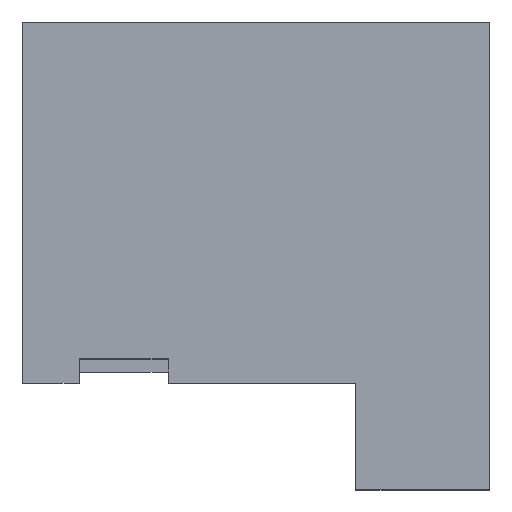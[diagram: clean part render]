
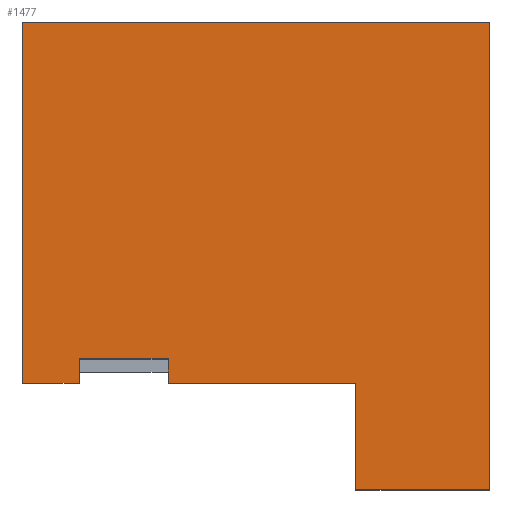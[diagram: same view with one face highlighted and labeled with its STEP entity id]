
A CAD part, top view. The second image highlights one B-rep face of the part: STEP entity #1477.
In plain terms, the highlighted planar face has unit normal (0, 0, 1).
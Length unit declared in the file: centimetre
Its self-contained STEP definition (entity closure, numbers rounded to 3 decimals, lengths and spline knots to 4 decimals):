
#1 = VERTEX_POINT ( 'NONE', #844 ) ;
#8 = LINE ( 'NONE', #511, #1486 ) ;
#17 = CARTESIAN_POINT ( 'NONE',  ( 713.7627, 0., 1000. ) ) ;
#22 = LINE ( 'NONE', #1015, #439 ) ;
#34 = CARTESIAN_POINT ( 'NONE',  ( 0., 1000., 1000. ) ) ;
#74 = LINE ( 'NONE', #1481, #113 ) ;
#113 = VECTOR ( 'NONE', #1605, 100. ) ;
#140 = LINE ( 'NONE', #17, #855 ) ;
#165 = EDGE_CURVE ( 'NONE', #708, #233, #1160, .T. ) ;
#192 = LINE ( 'NONE', #1283, #219 ) ;
#213 = CARTESIAN_POINT ( 'NONE',  ( 0., 1000., 1000. ) ) ;
#219 = VECTOR ( 'NONE', #945, 100. ) ;
#233 = VERTEX_POINT ( 'NONE', #213 ) ;
#253 = DIRECTION ( 'NONE',  ( 0., 1., 0. ) ) ;
#283 = VECTOR ( 'NONE', #296, 100. ) ;
#296 = DIRECTION ( 'NONE',  ( -1., 0., 0. ) ) ;
#326 = VERTEX_POINT ( 'NONE', #562 ) ;
#369 = ORIENTED_EDGE ( 'NONE', *, *, #919, .T. ) ;
#377 = ORIENTED_EDGE ( 'NONE', *, *, #733, .F. ) ;
#414 = VERTEX_POINT ( 'NONE', #893 ) ;
#420 = CARTESIAN_POINT ( 'NONE',  ( 312.033, 279.1629, 1000. ) ) ;
#439 = VECTOR ( 'NONE', #1260, 100. ) ;
#451 = FACE_OUTER_BOUND ( 'NONE', #1374, .T. ) ;
#476 = CARTESIAN_POINT ( 'NONE',  ( 1000., 1000., 1000. ) ) ;
#490 = DIRECTION ( 'NONE',  ( -1., 0., 0. ) ) ;
#510 = ORIENTED_EDGE ( 'NONE', *, *, #165, .T. ) ;
#511 = CARTESIAN_POINT ( 'NONE',  ( 312.033, 174.3009, 1000. ) ) ;
#536 = DIRECTION ( 'NONE',  ( -1., 0., 0. ) ) ;
#547 = VERTEX_POINT ( 'NONE', #420 ) ;
#562 = CARTESIAN_POINT ( 'NONE',  ( 312.033, 226.7319, 1000. ) ) ;
#610 = CARTESIAN_POINT ( 'NONE',  ( 713.7627, 226.7319, 1000. ) ) ;
#621 = CARTESIAN_POINT ( 'NONE',  ( 713.7627, 226.7319, 1000. ) ) ;
#672 = EDGE_CURVE ( 'NONE', #547, #414, #1470, .T. ) ;
#685 = VECTOR ( 'NONE', #1100, 100. ) ;
#708 = VERTEX_POINT ( 'NONE', #476 ) ;
#729 = CARTESIAN_POINT ( 'NONE',  ( 0., 226.7319, 1000. ) ) ;
#733 = EDGE_CURVE ( 'NONE', #1, #1523, #852, .T. ) ;
#754 = EDGE_CURVE ( 'NONE', #809, #1606, #74, .T. ) ;
#787 = CARTESIAN_POINT ( 'NONE',  ( 1000., 1000., 1000. ) ) ;
#790 = AXIS2_PLACEMENT_3D ( 'NONE', #1221, #1105, #1591 ) ;
#803 = ORIENTED_EDGE ( 'NONE', *, *, #672, .F. ) ;
#809 = VERTEX_POINT ( 'NONE', #970 ) ;
#814 = DIRECTION ( 'NONE',  ( 0., 1., 0. ) ) ;
#844 = CARTESIAN_POINT ( 'NONE',  ( 121.6211, 226.7319, 1000. ) ) ;
#852 = LINE ( 'NONE', #610, #1441 ) ;
#855 = VECTOR ( 'NONE', #253, 100. ) ;
#869 = ORIENTED_EDGE ( 'NONE', *, *, #1301, .F. ) ;
#883 = DIRECTION ( 'NONE',  ( 0., 1., 0. ) ) ;
#893 = CARTESIAN_POINT ( 'NONE',  ( 121.6211, 279.1629, 1000. ) ) ;
#898 = VECTOR ( 'NONE', #536, 100. ) ;
#919 = EDGE_CURVE ( 'NONE', #233, #1523, #192, .T. ) ;
#927 = LINE ( 'NONE', #787, #1120 ) ;
#944 = PLANE ( 'NONE',  #790 ) ;
#945 = DIRECTION ( 'NONE',  ( 0., -1., 0. ) ) ;
#970 = CARTESIAN_POINT ( 'NONE',  ( 713.7627, 0., 1000. ) ) ;
#1008 = ORIENTED_EDGE ( 'NONE', *, *, #1379, .T. ) ;
#1015 = CARTESIAN_POINT ( 'NONE',  ( 121.6211, 174.3009, 1000. ) ) ;
#1100 = DIRECTION ( 'NONE',  ( -1., 0., 0. ) ) ;
#1105 = DIRECTION ( 'NONE',  ( 0., 0., 1. ) ) ;
#1120 = VECTOR ( 'NONE', #814, 100. ) ;
#1160 = LINE ( 'NONE', #34, #898 ) ;
#1167 = ORIENTED_EDGE ( 'NONE', *, *, #754, .T. ) ;
#1169 = LINE ( 'NONE', #1313, #283 ) ;
#1205 = EDGE_CURVE ( 'NONE', #809, #1243, #140, .T. ) ;
#1218 = ORIENTED_EDGE ( 'NONE', *, *, #1205, .F. ) ;
#1221 = CARTESIAN_POINT ( 'NONE',  ( 0., 0., 1000. ) ) ;
#1243 = VERTEX_POINT ( 'NONE', #621 ) ;
#1255 = EDGE_CURVE ( 'NONE', #414, #1, #22, .T. ) ;
#1260 = DIRECTION ( 'NONE',  ( 0., -1., 0. ) ) ;
#1283 = CARTESIAN_POINT ( 'NONE',  ( 0., 1000., 1000. ) ) ;
#1301 = EDGE_CURVE ( 'NONE', #326, #547, #8, .T. ) ;
#1313 = CARTESIAN_POINT ( 'NONE',  ( 713.7627, 226.7319, 1000. ) ) ;
#1356 = EDGE_CURVE ( 'NONE', #1243, #326, #1169, .T. ) ;
#1374 = EDGE_LOOP ( 'NONE', ( #377, #1534, #803, #869, #1506, #1218, #1167, #1008, #510, #369 ) ) ;
#1379 = EDGE_CURVE ( 'NONE', #1606, #708, #927, .T. ) ;
#1401 = CARTESIAN_POINT ( 'NONE',  ( 1000., 0., 1000. ) ) ;
#1441 = VECTOR ( 'NONE', #490, 100. ) ;
#1470 = LINE ( 'NONE', #1610, #685 ) ;
#1477 = ADVANCED_FACE ( 'NONE', ( #451 ), #944, .T. ) ;
#1481 = CARTESIAN_POINT ( 'NONE',  ( 0., 0., 1000. ) ) ;
#1486 = VECTOR ( 'NONE', #883, 100. ) ;
#1506 = ORIENTED_EDGE ( 'NONE', *, *, #1356, .F. ) ;
#1523 = VERTEX_POINT ( 'NONE', #729 ) ;
#1534 = ORIENTED_EDGE ( 'NONE', *, *, #1255, .F. ) ;
#1591 = DIRECTION ( 'NONE',  ( 1., 0., 0. ) ) ;
#1605 = DIRECTION ( 'NONE',  ( 1., 0., 0. ) ) ;
#1606 = VERTEX_POINT ( 'NONE', #1401 ) ;
#1610 = CARTESIAN_POINT ( 'NONE',  ( 121.6211, 279.1629, 1000. ) ) ;
